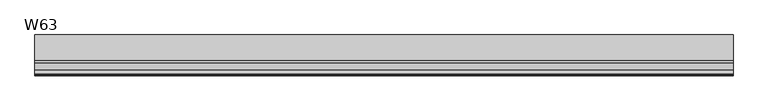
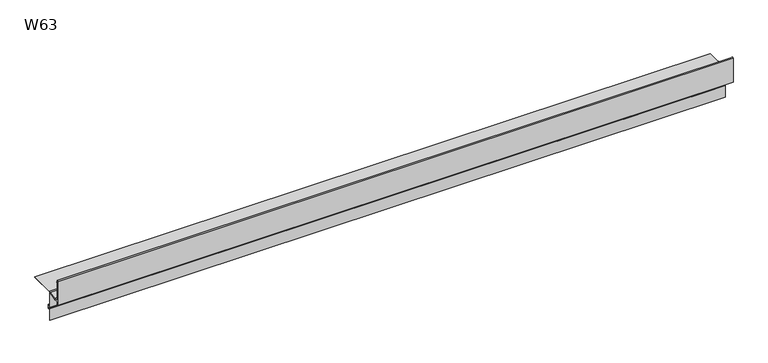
"""IFC4 building model written with IfcOpenShell, lengths in millimetres: proxy geometry, W63 Profil okapowy prosty : W63."""

from ifc_helpers import new_model, si_unit, point, frame, frame_2d, origin, place, context, project, spatial, polyline, circle_curve, trimmed, segment, composite_curve, outline, extrude, source, transform, mapped, element, save


def w63_d7f169f1(model_context):
    return source(origin(), model_context, "Body", "SweptSolid", [
        extrude(outline(composite_curve([segment(trimmed(circle_curve(frame_2d((-7.9099076, -20.0)), 20.0), [point((-12.814071, -0.610591))], [point((-7.9099076, 0.0))], False, "CARTESIAN"), True, "CONTINUOUS"), segment(polyline([(-7.9099076, 0.0), (72.7447545, 0.0), (72.7447545, -1.8), (-8.6, -1.8), (-8.6, -49.3), (0.0, -49.3), (0.0, -62.7), (-8.7, -62.7), (-8.7, -96.8), (-10.4, -96.8), (-10.4, -58.5), (-8.2, -58.5), (-8.2, -60.9), (-1.7, -60.9), (-1.7, -51.1), (-8.2, -51.1), (-8.2, -53.5), (-10.4, -53.5), (-10.4, -1.9598328), (-35.8680749, -8.4014734), (-37.3, -8.4014734), (-37.3, -9.6220163), (-38.5, -10.7671837), (-38.5, -8.4014734), (-52.5, -8.4014734), (-52.5, -18.605576), (-54.0, -19.8427552), (-54.0, 60.2083042)]), True, "CONTINUOUS"), segment(trimmed(circle_curve(frame_2d((-51.0901385, 60.1628945)), 2.9102158), [point((-54.0, 60.2083042))], [point((-51.5, 63.0441043))], False, "CARTESIAN"), True, "CONTINUOUS"), segment(polyline([(-51.5, 63.0441043), (-51.5, 61.2083042)]), True, "CONTINUOUS"), segment(trimmed(circle_curve(frame_2d((-51.5, 60.2083042)), 1.0), [point((-51.5, 61.2083042))], [point((-52.5, 60.2083042))], True, "CARTESIAN"), True, "CONTINUOUS"), segment(polyline([(-52.5, 60.2083042), (-52.5, 57.2983042), (-49.5, 57.2983042), (-49.5, 55.7983042), (-52.2, 55.7983042), (-52.2, -6.6014734), (-36.5, -6.6014734), (-12.814071, -0.610591)]), True, "CONTINUOUS")], self_intersect=False)), frame((0.0, 0.0, 0.0), z_axis=(1.0, 0.0, 0.0), x_axis=(0.0, 1.0, 0.0)), (0.0, 0.0, 1.0), 2163.0),
    ])


if __name__ == "__main__":
    model = new_model("IFC4")
    model_context = context("Model", 3, world=origin())
    ifc_project = project(units=[si_unit("LENGTHUNIT", "METRE", prefix="MILLI")], contexts=[model_context])
    site = spatial("IfcSite", under=ifc_project)
    building = spatial("IfcBuilding", under=site)
    placement = place(None, origin())
    w63_shape = w63_d7f169f1(model_context)
    element("IfcBuildingElementProxy", 1, Name="W63 Profil okapowy prosty : W63", ObjectType="W63 Profil okapowy prosty : W63", at=placement, inside=building, context=model_context, shape_type="MappedRepresentation", body=[
        mapped(w63_shape, transform((0.0, 0.0, 0.0), x_axis=(1.0, 0.0, 0.0), y_axis=(0.0, 1.0, 0.0), z_axis=(0.0, 0.0, 1.0))),
    ])
    save(model, "model.ifc")
